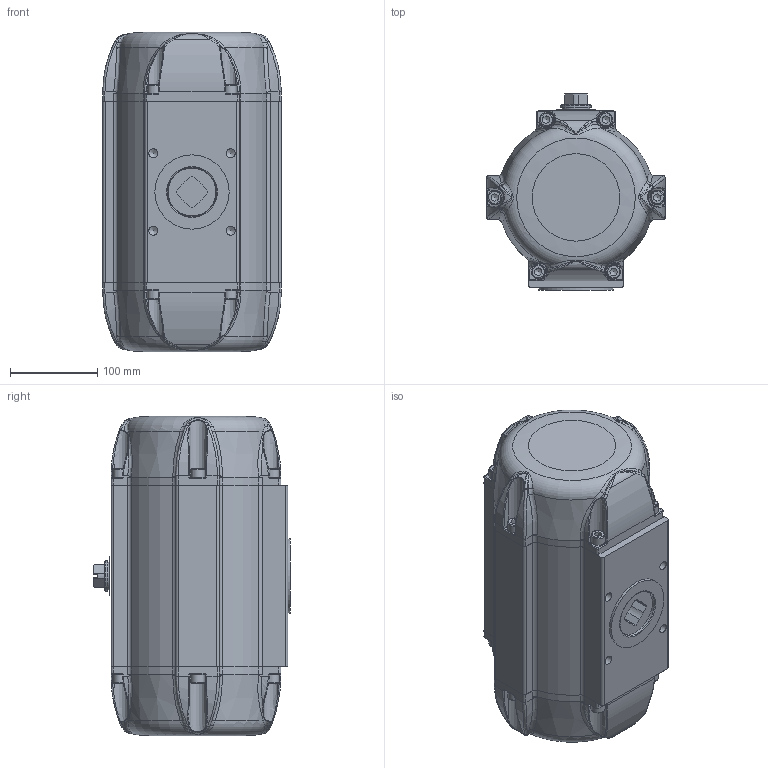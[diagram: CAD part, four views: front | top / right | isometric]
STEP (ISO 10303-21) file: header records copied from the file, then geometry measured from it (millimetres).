
FILE_DESCRIPTION(/* description */ (''),/* implementation_level */ '2;1');
FILE_NAME(/* name */ 'P:\KO\DOKUMENTATION ANTRIEBSPROGRAMM\AKTUELLES ANTRIEBSPROGRAMM\BR03C_SAD_SAF_90°_Chemie\STEP-Dateien\33\SAF 33 BR03C.stp',/* time_stamp */ '2020-11-26T09:31:57+01:00',/* author */ ('mkl'),/* organization */ (''),/* preprocessor_version */ 'ST-DEVELOPER v16.1',/* originating_system */ 'Autodesk Inventor 2016',/* authorisation */ '');
FILE_SCHEMA (('AUTOMOTIVE_DESIGN { 1 0 10303 214 3 1 1 }'));
Length unit declared in the file: millimetre
Products named in the file (1): ENG-050211_Shrinkwrap_1
Bounding box: 204 x 225 x 365.2 mm (x, y, z)
Surface area: 348121.7 mm2 (no closed solid volume)
Topology: 0 solids, 27 shells, 603 faces, 1895 edges, 1253 vertices
Faces by surface type: cylinder 196, plane 171, bspline 168, cone 45, torus 23
Full cylindrical faces by diameter (mm): 4.134 x8, 4.917 x1, 10.376 x4, 11.445 x2, 16 x12, 26 x1, 32.5 x1, 34.8 x1, 56 x1, 85 x1
Entity records: 27172 total; most frequent: CARTESIAN_POINT 11585, ORIENTED_EDGE 2984, DIRECTION 2815, EDGE_CURVE 1785, VERTEX_POINT 1223, AXIS2_PLACEMENT_3D 1113, EDGE_LOOP 730, CIRCLE 609
